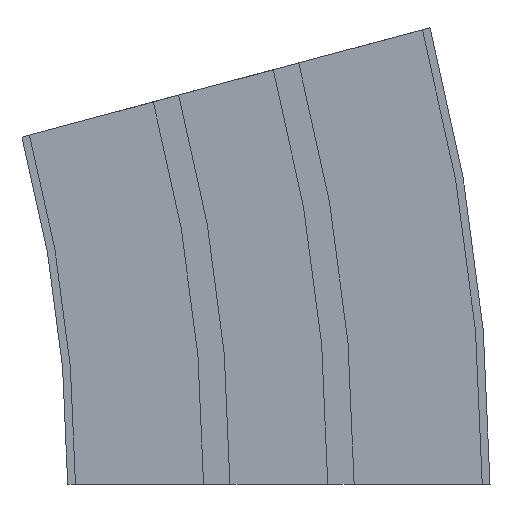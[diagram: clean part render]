
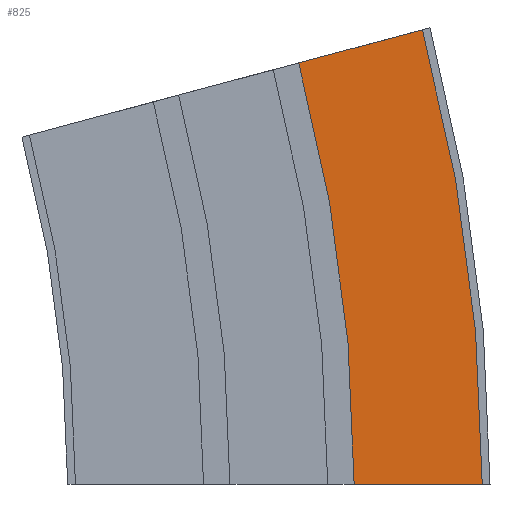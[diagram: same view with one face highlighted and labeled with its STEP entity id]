
A CAD part, left-side view. The second image highlights one B-rep face of the part: STEP entity #825.
In plain terms, the highlighted planar face has unit normal (-1, 0, 0).
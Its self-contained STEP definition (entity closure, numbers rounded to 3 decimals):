
#22 = AXIS2_PLACEMENT_3D ( 'NONE', #571, #572, #573 ) ;
#25 = AXIS2_PLACEMENT_3D ( 'NONE', #308, #309, #310 ) ;
#123 = CARTESIAN_POINT ( 'NONE',  ( -325.25, -6.387, 135.686 ) ) ;
#126 = PLANE ( 'NONE',  #390 ) ;
#168 = VERTEX_POINT ( 'NONE', #655 ) ;
#169 = VERTEX_POINT ( 'NONE', #656 ) ;
#181 = VERTEX_POINT ( 'NONE', #668 ) ;
#184 = VERTEX_POINT ( 'NONE', #671 ) ;
#307 = CARTESIAN_POINT ( 'NONE',  ( -325.25, -6.387, 135.686 ) ) ;
#308 = CARTESIAN_POINT ( 'NONE',  ( -325.25, 500., 0. ) ) ;
#309 = DIRECTION ( 'NONE',  ( 1., 0., 0. ) ) ;
#310 = DIRECTION ( 'NONE',  ( 0., 0., -1. ) ) ;
#311 = DIRECTION ( 'NONE',  ( 0., -0.966, 0.259 ) ) ;
#355 = DIRECTION ( 'NONE',  ( 0., 0., -1. ) ) ;
#390 = AXIS2_PLACEMENT_3D ( 'NONE', #123, #789, #355 ) ;
#536 = VECTOR ( 'NONE', #776, 1000. ) ;
#538 = VECTOR ( 'NONE', #311, 1000. ) ;
#539 = LINE ( 'NONE', #771, #536 ) ;
#542 = CIRCLE ( 'NONE', #25, 565.5 ) ;
#547 = LINE ( 'NONE', #307, #538 ) ;
#550 = CIRCLE ( 'NONE', #22, 524.25 ) ;
#571 = CARTESIAN_POINT ( 'NONE',  ( -325.25, 500., 0. ) ) ;
#572 = DIRECTION ( 'NONE',  ( 1., 0., 0. ) ) ;
#573 = DIRECTION ( 'NONE',  ( 0., 0., -1. ) ) ;
#655 = CARTESIAN_POINT ( 'NONE',  ( -325.25, -65.5, 0. ) ) ;
#656 = CARTESIAN_POINT ( 'NONE',  ( -325.25, -46.231, 146.362 ) ) ;
#668 = CARTESIAN_POINT ( 'NONE',  ( -325.25, -24.25, 0. ) ) ;
#671 = CARTESIAN_POINT ( 'NONE',  ( -325.25, -6.387, 135.686 ) ) ;
#697 = EDGE_CURVE ( 'NONE', #184, #181, #550, .T. ) ;
#704 = EDGE_CURVE ( 'NONE', #169, #168, #542, .T. ) ;
#705 = EDGE_CURVE ( 'NONE', #184, #169, #547, .T. ) ;
#706 = EDGE_CURVE ( 'NONE', #181, #168, #539, .T. ) ;
#771 = CARTESIAN_POINT ( 'NONE',  ( -325.25, -24.25, 0. ) ) ;
#776 = DIRECTION ( 'NONE',  ( 0., -1., 0. ) ) ;
#789 = DIRECTION ( 'NONE',  ( 1., 0., 0. ) ) ;
#825 = ADVANCED_FACE ( 'NONE', ( #895 ), #126, .F. ) ;
#895 = FACE_OUTER_BOUND ( 'NONE', #948, .T. ) ;
#948 = EDGE_LOOP ( 'NONE', ( #959, #960, #1011, #963 ) ) ;
#959 = ORIENTED_EDGE ( 'NONE', *, *, #704, .F. ) ;
#960 = ORIENTED_EDGE ( 'NONE', *, *, #705, .F. ) ;
#963 = ORIENTED_EDGE ( 'NONE', *, *, #706, .T. ) ;
#1011 = ORIENTED_EDGE ( 'NONE', *, *, #697, .T. ) ;
